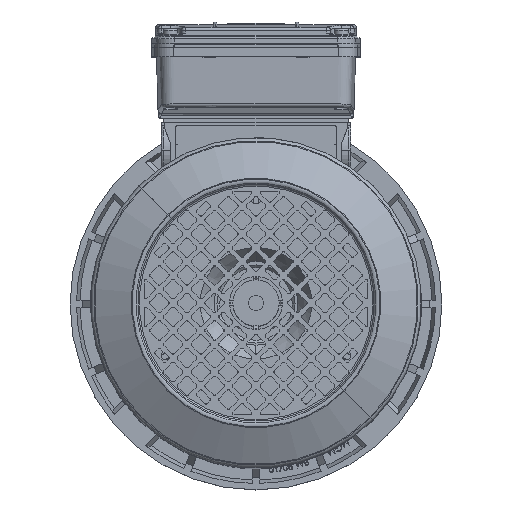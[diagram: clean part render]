
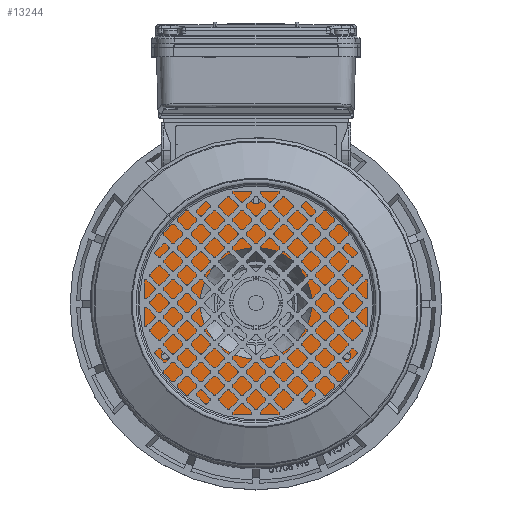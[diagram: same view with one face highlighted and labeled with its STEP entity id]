
A CAD part, top view. The second image highlights one B-rep face of the part: STEP entity #13244.
In plain terms, the highlighted planar face has unit normal (0, 0, 1) as drawn and (0, 1, 0) by its records, which use the part's own axes.
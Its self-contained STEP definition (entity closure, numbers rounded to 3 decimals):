
#895 = DIRECTION ( 'NONE',  ( 0., 0., 1. ) ) ;
#3242 = ORIENTED_EDGE ( 'NONE', *, *, #9251, .F. ) ;
#4541 = FACE_BOUND ( 'NONE', #81530, .T. ) ;
#5068 = DIRECTION ( 'NONE',  ( 0., 1., 0. ) ) ;
#5806 = CARTESIAN_POINT ( 'NONE',  ( -48.497, 36., -30.5 ) ) ;
#5958 = VERTEX_POINT ( 'NONE', #85528 ) ;
#8237 = PLANE ( 'NONE',  #76265 ) ;
#9251 = EDGE_CURVE ( 'NONE', #40316, #21245, #71130, .T. ) ;
#13244 = ADVANCED_FACE ( 'NONE', ( #88182, #56275, #30327, #4541, #104931 ), #8237, .F. ) ;
#14164 = CARTESIAN_POINT ( 'NONE',  ( 0., 36., -67.5 ) ) ;
#14959 = CIRCLE ( 'NONE', #109084, 2.5 ) ;
#17159 = VERTEX_POINT ( 'NONE', #22232 ) ;
#17328 = ORIENTED_EDGE ( 'NONE', *, *, #121412, .F. ) ;
#19381 = EDGE_CURVE ( 'NONE', #62912, #74994, #27740, .T. ) ;
#20422 = AXIS2_PLACEMENT_3D ( 'NONE', #40878, #108911, #50635 ) ;
#21245 = VERTEX_POINT ( 'NONE', #65625 ) ;
#22232 = CARTESIAN_POINT ( 'NONE',  ( 0., 36., 67.5 ) ) ;
#22352 = ORIENTED_EDGE ( 'NONE', *, *, #50627, .T. ) ;
#22952 = CARTESIAN_POINT ( 'NONE',  ( 0., 36., 58.5 ) ) ;
#23018 = CARTESIAN_POINT ( 'NONE',  ( -48.497, 36., -28. ) ) ;
#24160 = CIRCLE ( 'NONE', #83383, 2.5 ) ;
#25064 = EDGE_LOOP ( 'NONE', ( #105236, #74956 ) ) ;
#25871 = DIRECTION ( 'NONE',  ( 0., 1., 0. ) ) ;
#26253 = CARTESIAN_POINT ( 'NONE',  ( 0., 36., 0. ) ) ;
#27740 = CIRCLE ( 'NONE', #81604, 2.5 ) ;
#30327 = FACE_BOUND ( 'NONE', #95028, .T. ) ;
#32636 = DIRECTION ( 'NONE',  ( 0., 1., 0. ) ) ;
#32805 = DIRECTION ( 'NONE',  ( 0., 0., 1. ) ) ;
#32995 = DIRECTION ( 'NONE',  ( 0., 1., 0. ) ) ;
#36052 = DIRECTION ( 'NONE',  ( 0., 0., 1. ) ) ;
#40316 = VERTEX_POINT ( 'NONE', #22952 ) ;
#40878 = CARTESIAN_POINT ( 'NONE',  ( 0., 36., 56. ) ) ;
#42967 = CARTESIAN_POINT ( 'NONE',  ( 0., 36., -30. ) ) ;
#44789 = CARTESIAN_POINT ( 'NONE',  ( 0., 36., 0. ) ) ;
#45143 = DIRECTION ( 'NONE',  ( 0., 1., 0. ) ) ;
#45966 = VERTEX_POINT ( 'NONE', #42967 ) ;
#46752 = VERTEX_POINT ( 'NONE', #14164 ) ;
#48576 = DIRECTION ( 'NONE',  ( 0., -1., 0. ) ) ;
#49387 = AXIS2_PLACEMENT_3D ( 'NONE', #63311, #5068, #73072 ) ;
#49443 = EDGE_CURVE ( 'NONE', #76856, #102986, #24160, .T. ) ;
#50627 = EDGE_CURVE ( 'NONE', #17159, #46752, #89352, .T. ) ;
#50635 = DIRECTION ( 'NONE',  ( 0., 0., 1. ) ) ;
#53859 = EDGE_CURVE ( 'NONE', #102986, #76856, #113222, .T. ) ;
#54551 = DIRECTION ( 'NONE',  ( 0., 0., 1. ) ) ;
#56275 = FACE_BOUND ( 'NONE', #113803, .T. ) ;
#59124 = DIRECTION ( 'NONE',  ( 0., 1., 0. ) ) ;
#62046 = ORIENTED_EDGE ( 'NONE', *, *, #99586, .F. ) ;
#62912 = VERTEX_POINT ( 'NONE', #79411 ) ;
#63311 = CARTESIAN_POINT ( 'NONE',  ( 0., 36., 0. ) ) ;
#65625 = CARTESIAN_POINT ( 'NONE',  ( 0., 36., 53.5 ) ) ;
#65674 = CIRCLE ( 'NONE', #75522, 30. ) ;
#67777 = CARTESIAN_POINT ( 'NONE',  ( 48.497, 36., -30.5 ) ) ;
#68469 = CIRCLE ( 'NONE', #86225, 2.5 ) ;
#69243 = AXIS2_PLACEMENT_3D ( 'NONE', #91219, #32995, #100990 ) ;
#71130 = CIRCLE ( 'NONE', #20422, 2.5 ) ;
#73072 = DIRECTION ( 'NONE',  ( 0., 0., 1. ) ) ;
#74169 = CIRCLE ( 'NONE', #69243, 67.5 ) ;
#74956 = ORIENTED_EDGE ( 'NONE', *, *, #49443, .F. ) ;
#74994 = VERTEX_POINT ( 'NONE', #67777 ) ;
#75522 = AXIS2_PLACEMENT_3D ( 'NONE', #26253, #94253, #36052 ) ;
#75989 = EDGE_CURVE ( 'NONE', #74994, #62912, #14959, .T. ) ;
#76265 = AXIS2_PLACEMENT_3D ( 'NONE', #106832, #48576, #116585 ) ;
#76702 = EDGE_CURVE ( 'NONE', #46752, #17159, #74169, .T. ) ;
#76856 = VERTEX_POINT ( 'NONE', #5806 ) ;
#79411 = CARTESIAN_POINT ( 'NONE',  ( 48.497, 36., -25.5 ) ) ;
#81530 = EDGE_LOOP ( 'NONE', ( #62046, #107857 ) ) ;
#81604 = AXIS2_PLACEMENT_3D ( 'NONE', #84106, #25871, #93882 ) ;
#83383 = AXIS2_PLACEMENT_3D ( 'NONE', #117366, #59124, #895 ) ;
#84106 = CARTESIAN_POINT ( 'NONE',  ( 48.497, 36., -28. ) ) ;
#85528 = CARTESIAN_POINT ( 'NONE',  ( 0., 36., 30. ) ) ;
#86225 = AXIS2_PLACEMENT_3D ( 'NONE', #90869, #32636, #100626 ) ;
#88182 = FACE_BOUND ( 'NONE', #25064, .T. ) ;
#89352 = CIRCLE ( 'NONE', #112841, 67.5 ) ;
#89489 = ORIENTED_EDGE ( 'NONE', *, *, #75989, .F. ) ;
#90869 = CARTESIAN_POINT ( 'NONE',  ( 0., 36., 56. ) ) ;
#91046 = DIRECTION ( 'NONE',  ( 0., 1., 0. ) ) ;
#91219 = CARTESIAN_POINT ( 'NONE',  ( 0., 36., 0. ) ) ;
#92629 = ORIENTED_EDGE ( 'NONE', *, *, #19381, .F. ) ;
#93882 = DIRECTION ( 'NONE',  ( 0., 0., 1. ) ) ;
#94253 = DIRECTION ( 'NONE',  ( 0., 1., 0. ) ) ;
#95028 = EDGE_LOOP ( 'NONE', ( #3242, #17328 ) ) ;
#99533 = EDGE_CURVE ( 'NONE', #45966, #5958, #120393, .T. ) ;
#99586 = EDGE_CURVE ( 'NONE', #5958, #45966, #65674, .T. ) ;
#100626 = DIRECTION ( 'NONE',  ( 0., 0., 1. ) ) ;
#100990 = DIRECTION ( 'NONE',  ( 0., 0., 1. ) ) ;
#102986 = VERTEX_POINT ( 'NONE', #105510 ) ;
#103357 = CARTESIAN_POINT ( 'NONE',  ( 48.497, 36., -28. ) ) ;
#104931 = FACE_OUTER_BOUND ( 'NONE', #113215, .T. ) ;
#105236 = ORIENTED_EDGE ( 'NONE', *, *, #53859, .F. ) ;
#105510 = CARTESIAN_POINT ( 'NONE',  ( -48.497, 36., -25.5 ) ) ;
#106832 = CARTESIAN_POINT ( 'NONE',  ( 30., 36., 0. ) ) ;
#107857 = ORIENTED_EDGE ( 'NONE', *, *, #99533, .F. ) ;
#108911 = DIRECTION ( 'NONE',  ( 0., 1., 0. ) ) ;
#109084 = AXIS2_PLACEMENT_3D ( 'NONE', #103357, #45143, #113141 ) ;
#112795 = DIRECTION ( 'NONE',  ( 0., 1., 0. ) ) ;
#112841 = AXIS2_PLACEMENT_3D ( 'NONE', #44789, #112795, #54551 ) ;
#113141 = DIRECTION ( 'NONE',  ( 0., 0., 1. ) ) ;
#113215 = EDGE_LOOP ( 'NONE', ( #22352, #118078 ) ) ;
#113222 = CIRCLE ( 'NONE', #122918, 2.5 ) ;
#113803 = EDGE_LOOP ( 'NONE', ( #92629, #89489 ) ) ;
#116585 = DIRECTION ( 'NONE',  ( 0., 0., -1. ) ) ;
#117366 = CARTESIAN_POINT ( 'NONE',  ( -48.497, 36., -28. ) ) ;
#118078 = ORIENTED_EDGE ( 'NONE', *, *, #76702, .T. ) ;
#120393 = CIRCLE ( 'NONE', #49387, 30. ) ;
#121412 = EDGE_CURVE ( 'NONE', #21245, #40316, #68469, .T. ) ;
#122918 = AXIS2_PLACEMENT_3D ( 'NONE', #23018, #91046, #32805 ) ;
